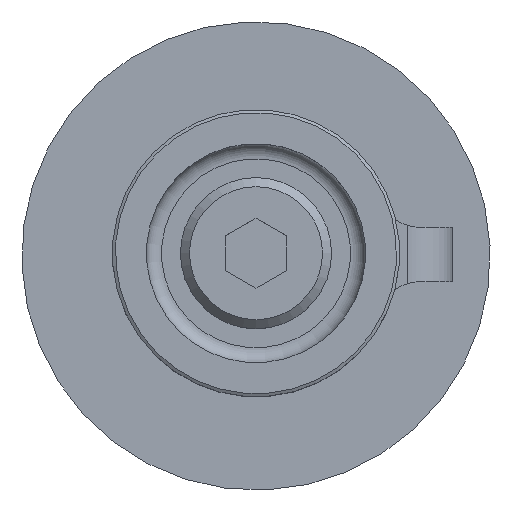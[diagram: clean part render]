
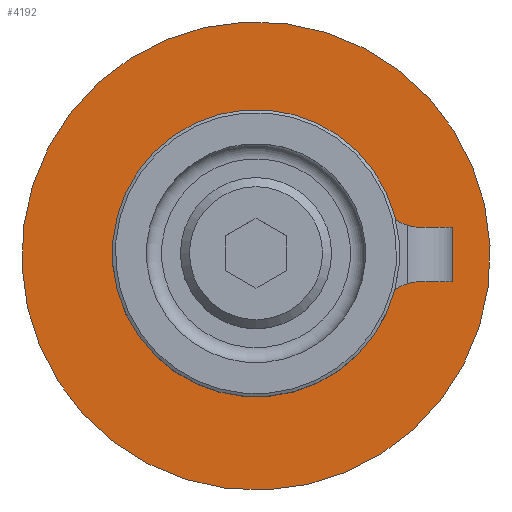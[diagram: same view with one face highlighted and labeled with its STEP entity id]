
A CAD part, top view. The second image highlights one B-rep face of the part: STEP entity #4192.
In plain terms, the highlighted planar face has unit normal (0, 0, 1) as drawn and (0, 1, 0) by its records, which use the part's own axes.
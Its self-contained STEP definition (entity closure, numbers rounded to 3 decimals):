
#3680=PLANE('',#8627);
#3864=FACE_OUTER_BOUND('',#4980,.T.);
#4192=ADVANCED_FACE('',(#3864),#3680,.F.);
#4980=EDGE_LOOP('',(#6067));
#6067=ORIENTED_EDGE('',*,*,#7606,.F.);
#6944=VERTEX_POINT('',#11549);
#7606=EDGE_CURVE('',#6944,#6944,#8089,.T.);
#8089=CIRCLE('',#8625,15.5);
#8625=AXIS2_PLACEMENT_3D('',#11548,#9980,#9981);
#8627=AXIS2_PLACEMENT_3D('',#11551,#9984,#9985);
#9980=DIRECTION('',(0.,-1.,0.));
#9981=DIRECTION('',(0.,0.,-1.));
#9984=DIRECTION('',(0.,-1.,0.));
#9985=DIRECTION('',(0.,0.,-1.));
#11548=CARTESIAN_POINT('',(0.,70.,0.));
#11549=CARTESIAN_POINT('',(0.,70.,-15.5));
#11551=CARTESIAN_POINT('',(0.,70.,0.));
